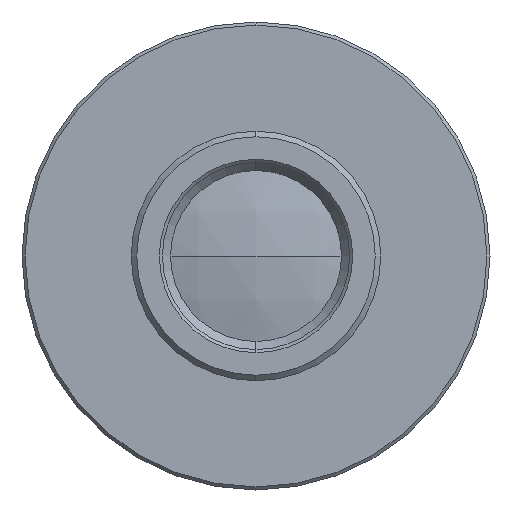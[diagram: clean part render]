
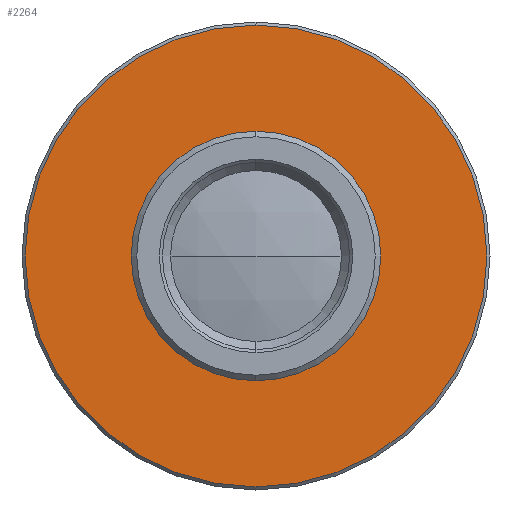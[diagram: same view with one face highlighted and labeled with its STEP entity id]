
A CAD part, left-side view. The second image highlights one B-rep face of the part: STEP entity #2264.
In plain terms, the highlighted planar face has unit normal (-1, 0, 0).
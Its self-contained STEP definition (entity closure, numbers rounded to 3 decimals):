
#56 = CIRCLE ( 'NONE', #2564, 8. ) ;
#65 = AXIS2_PLACEMENT_3D ( 'NONE', #88, #2299, #2095 ) ;
#88 = CARTESIAN_POINT ( 'NONE',  ( -19.526, 14.8, 0. ) ) ;
#182 = AXIS2_PLACEMENT_3D ( 'NONE', #237, #1618, #1600 ) ;
#222 = CARTESIAN_POINT ( 'NONE',  ( -19.526, 0., 0. ) ) ;
#232 = VERTEX_POINT ( 'NONE', #1564 ) ;
#237 = CARTESIAN_POINT ( 'NONE',  ( -19.526, 0., 0. ) ) ;
#271 = FACE_BOUND ( 'NONE', #1944, .T. ) ;
#307 = CIRCLE ( 'NONE', #1772, 14.8 ) ;
#323 = DIRECTION ( 'NONE',  ( -1., 0., 0. ) ) ;
#394 = EDGE_CURVE ( 'NONE', #232, #1073, #1328, .T. ) ;
#439 = ORIENTED_EDGE ( 'NONE', *, *, #856, .F. ) ;
#542 = ORIENTED_EDGE ( 'NONE', *, *, #394, .F. ) ;
#683 = EDGE_CURVE ( 'NONE', #986, #2490, #307, .T. ) ;
#755 = ORIENTED_EDGE ( 'NONE', *, *, #683, .T. ) ;
#786 = EDGE_LOOP ( 'NONE', ( #755, #2582 ) ) ;
#806 = CARTESIAN_POINT ( 'NONE',  ( -19.526, 0., 0. ) ) ;
#852 = CARTESIAN_POINT ( 'NONE',  ( -19.526, 0., -8. ) ) ;
#856 = EDGE_CURVE ( 'NONE', #1073, #232, #56, .T. ) ;
#986 = VERTEX_POINT ( 'NONE', #2178 ) ;
#1002 = CARTESIAN_POINT ( 'NONE',  ( -19.526, 0., 14.8 ) ) ;
#1030 = CIRCLE ( 'NONE', #2576, 14.8 ) ;
#1073 = VERTEX_POINT ( 'NONE', #852 ) ;
#1166 = DIRECTION ( 'NONE',  ( -1., 0., 0. ) ) ;
#1176 = DIRECTION ( 'NONE',  ( 0., 0., 1. ) ) ;
#1328 = CIRCLE ( 'NONE', #182, 8. ) ;
#1501 = PLANE ( 'NONE',  #65 ) ;
#1507 = CARTESIAN_POINT ( 'NONE',  ( -19.526, 0., 0. ) ) ;
#1564 = CARTESIAN_POINT ( 'NONE',  ( -19.526, 0., 8. ) ) ;
#1600 = DIRECTION ( 'NONE',  ( 0., 0., 1. ) ) ;
#1618 = DIRECTION ( 'NONE',  ( -1., 0., 0. ) ) ;
#1772 = AXIS2_PLACEMENT_3D ( 'NONE', #222, #1824, #2410 ) ;
#1824 = DIRECTION ( 'NONE',  ( -1., 0., 0. ) ) ;
#1882 = FACE_OUTER_BOUND ( 'NONE', #786, .T. ) ;
#1944 = EDGE_LOOP ( 'NONE', ( #542, #439 ) ) ;
#2095 = DIRECTION ( 'NONE',  ( 0., 0., -1. ) ) ;
#2178 = CARTESIAN_POINT ( 'NONE',  ( -19.526, 0., -14.8 ) ) ;
#2264 = ADVANCED_FACE ( 'NONE', ( #271, #1882 ), #1501, .F. ) ;
#2299 = DIRECTION ( 'NONE',  ( 1., 0., 0. ) ) ;
#2304 = DIRECTION ( 'NONE',  ( 0., 0., 1. ) ) ;
#2410 = DIRECTION ( 'NONE',  ( 0., 0., 1. ) ) ;
#2488 = EDGE_CURVE ( 'NONE', #2490, #986, #1030, .T. ) ;
#2490 = VERTEX_POINT ( 'NONE', #1002 ) ;
#2564 = AXIS2_PLACEMENT_3D ( 'NONE', #1507, #323, #2304 ) ;
#2576 = AXIS2_PLACEMENT_3D ( 'NONE', #806, #1166, #1176 ) ;
#2582 = ORIENTED_EDGE ( 'NONE', *, *, #2488, .T. ) ;
